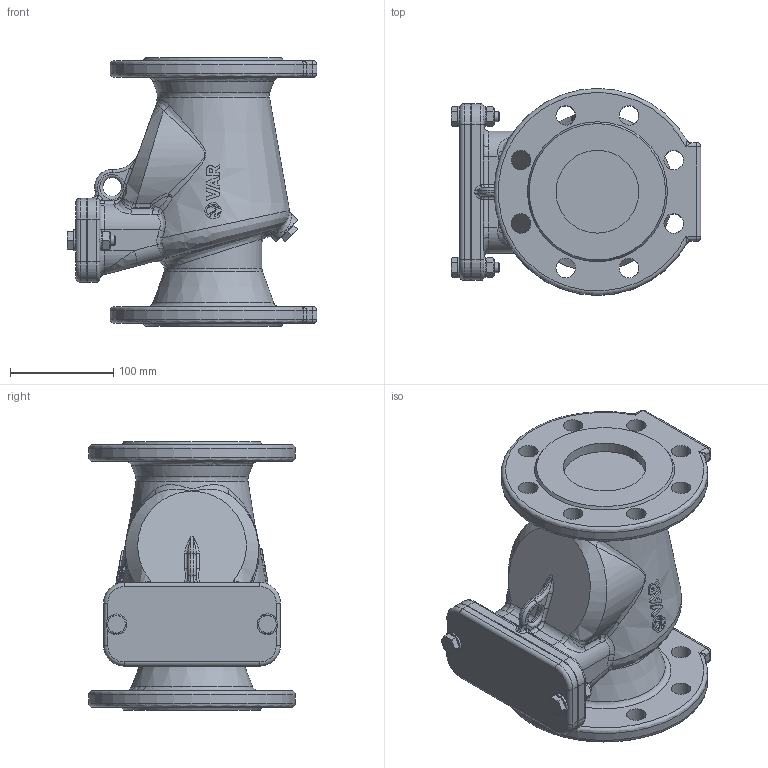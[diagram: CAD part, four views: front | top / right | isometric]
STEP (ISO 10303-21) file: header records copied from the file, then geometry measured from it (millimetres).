
FILE_DESCRIPTION(('STEP AP242'), '1');
FILE_NAME('VAR RETO-STOP 吾疣蝽 觌囡囗 DN 80 PN 16', '2026-06-29T06:35:35', (' '), (' '), 'C3D Converter', 'C3D Toolkit', '');
FILE_SCHEMA(('AP242_MANAGED_MODEL_BASED_3D_ENGINEERING_MIM_LF { 1 0 10303 442 1 1 4 }'));
Length unit declared in the file: millimetre
Products named in the file (1): Admi10D408D9fee3
Bounding box: 241.4 x 200 x 260 mm (x, y, z)
Volume: 4471224.4 mm3; surface area: 277332.3 mm2
Topology: 1 solids, 6 shells, 641 faces, 1731 edges, 1105 vertices
Faces by surface type: plane 193, extrusion 152, cylinder 114, bspline 69, cone 61, torus 34, sphere 18
Full cylindrical faces by diameter (mm): 10 x7, 10.5 x5, 15.6 x3, 15.683 x1, 18 x2, 19 x16, 20 x5, 30 x1, 80 x2
Entity records: 45857 total; most frequent: CARTESIAN_POINT 26418, ORIENTED_EDGE 3260, DIRECTION 2427, EDGE_CURVE 1630, VERTEX_POINT 1100, AXIS2_PLACEMENT_3D 912, B_SPLINE_CURVE_WITH_KNOTS 840, EDGE_LOOP 784
